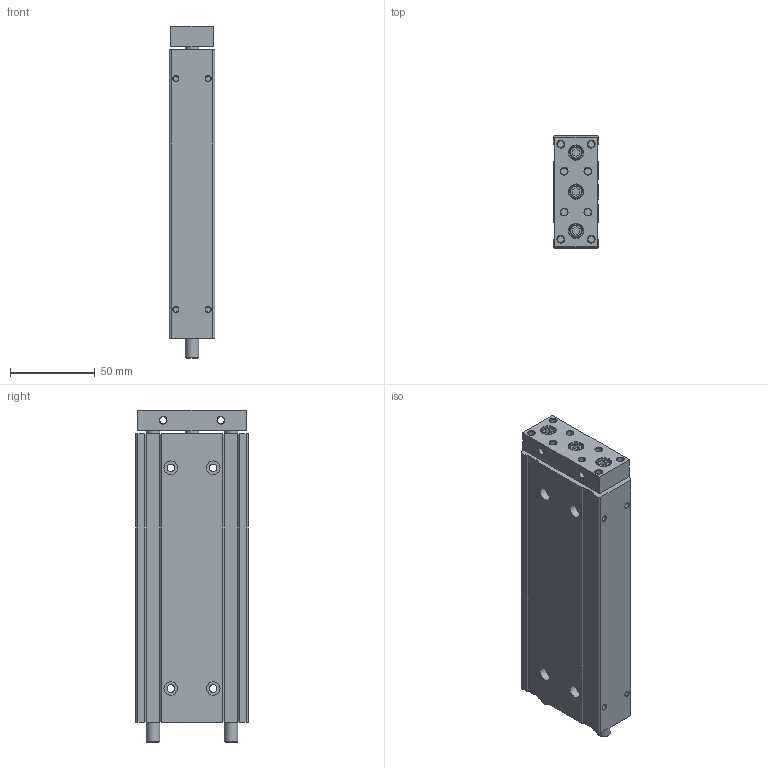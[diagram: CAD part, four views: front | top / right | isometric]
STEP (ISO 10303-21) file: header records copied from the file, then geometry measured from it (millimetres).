
FILE_DESCRIPTION((''),'2;1');
FILE_NAME('I:\3D電子目錄\氣缸\TB(U)\TB(U)16\TB(U)16\TB(U)16x125.stp','2007-08-06T08:10:22',('Administrator'),(''),'Autodesk Inventor 2008','Autodesk Inventor 2008','');
FILE_SCHEMA(('AUTOMOTIVE_DESIGN { 1 0 10303 214 1 1 1 1 }'));
Length unit declared in the file: millimetre
Products named in the file (1): TB(U)16X125
Bounding box: 27 x 66 x 195.5 mm (x, y, z)
Volume: 302953 mm3; surface area: 50525.5 mm2
Topology: 1 solids, 1 shells, 184 faces, 396 edges, 252 vertices
Faces by surface type: plane 84, cylinder 52, cone 37, bspline 8, torus 3
Full cylindrical faces by diameter (mm): 3 x4, 4 x10, 4.4 x4, 5 x6, 7.5 x3, 8 x13, 8.5 x3, 15 x2, 18 x1
Entity records: 4640 total; most frequent: CARTESIAN_POINT 815, DIRECTION 808, ORIENTED_EDGE 604, EDGE_LOOP 344, AXIS2_PLACEMENT_3D 329, EDGE_CURVE 302, VERTEX_POINT 248, FACE_OUTER_BOUND 184
